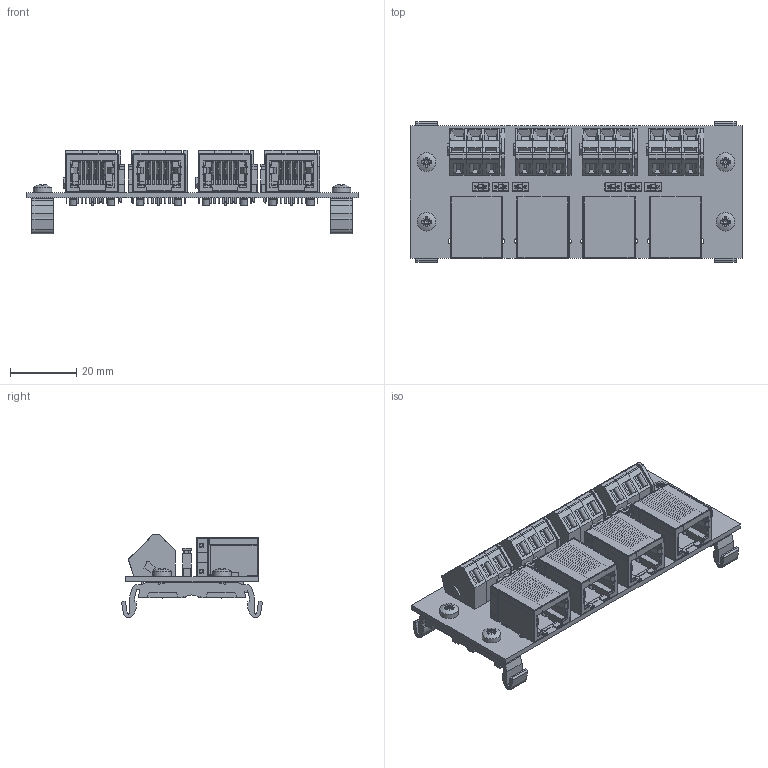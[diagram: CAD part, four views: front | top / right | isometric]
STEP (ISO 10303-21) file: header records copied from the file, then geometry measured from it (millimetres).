
FILE_DESCRIPTION(('KiCad electronic assembly'),'2;1');
FILE_NAME('TERMINALS_TO_LAN.step','2021-05-24T19:18:26',('An Author'),( 'A Company'),'Open CASCADE STEP processor 6.9', 'KiCad to STEP converter','Unknown');
FILE_SCHEMA(('AUTOMOTIVE_DESIGN { 1 0 10303 214 1 1 1 1 }'));
Length unit declared in the file: millimetre
Products named in the file (20): Open CASCADE STEP translator 6.9 1; WAGO_209-120; SOLID; Jumper_Wuerth_60900213421; COMPOUND; PinHeader_1x02_P2.54mm_Vertical; WAGO_236-401; RJ45_Wuerth_615008140121; WAGO_209-119; WAGO_236-100; WAGO_236-746; WAGO_236-744
Assembly tree (48 placements, depth 3):
  Open CASCADE STEP translator 6.9 1
    WAGO_209-120  x2
      SOLID
    Jumper_Wuerth_60900213421  x6
      COMPOUND
    PinHeader_1x02_P2.54mm_Vertical  x6
      SOLID
    WAGO_236-401  x4
      SOLID
    RJ45_Wuerth_615008140121  x4
      COMPOUND
    WAGO_209-119  x4
      SOLID
    WAGO_236-100  x4
      SOLID
    WAGO_236-746  x4
      SOLID
    WAGO_236-744  x4
      SOLID
    COMPOUND
Bounding box: 100 x 42.4 x 25.13 mm (x, y, z)
Volume: 25025.8 mm3; surface area: 44253.8 mm2
Topology: 81 solids, 81 shells, 5072 faces, 13270 edges, 8502 vertices
Faces by surface type: plane 3500, cylinder 1402, bspline 68, cone 42, torus 36, extrusion 12, sphere 12
Full cylindrical faces by diameter (mm): 0.406 x32, 0.45 x128, 0.7 x32, 0.76 x32, 1 x12, 1.2 x24, 1.3 x24, 1.6 x32, 2.9 x4, 3.2 x12, 4.4 x2, 5.6 x4
Entity records: 99474 total; most frequent: CARTESIAN_POINT 29454, DIRECTION 12859, VECTOR 8030, LINE 8028, ORIENTED_EDGE 6874, PCURVE 6874, DEFINITIONAL_REPRESENTATION 6874, EDGE_CURVE 3437
